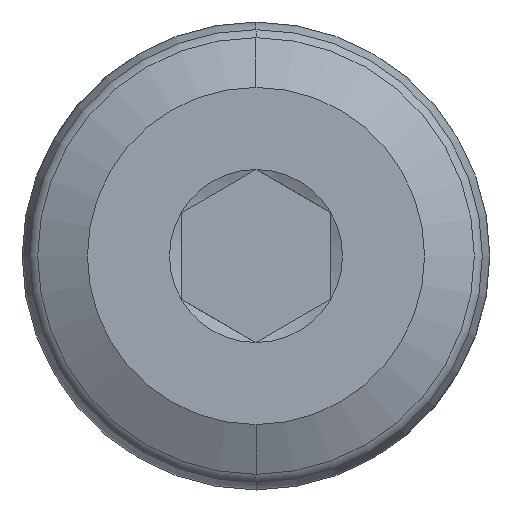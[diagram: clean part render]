
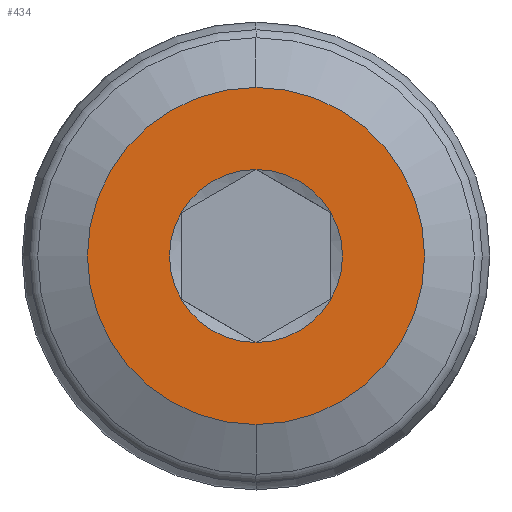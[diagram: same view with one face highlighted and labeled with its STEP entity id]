
A CAD part, left-side view. The second image highlights one B-rep face of the part: STEP entity #434.
In plain terms, the highlighted planar face has unit normal (-1, 0, 0).
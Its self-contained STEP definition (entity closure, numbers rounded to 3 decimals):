
#2 = CIRCLE ( 'NONE', #237, 2.309 ) ;
#5 = EDGE_CURVE ( 'NONE', #755, #504, #836, .T. ) ;
#10 = DIRECTION ( 'NONE',  ( 0., 0., -1. ) ) ;
#25 = AXIS2_PLACEMENT_3D ( 'NONE', #753, #818, #430 ) ;
#47 = VERTEX_POINT ( 'NONE', #140 ) ;
#59 = EDGE_CURVE ( 'NONE', #47, #265, #650, .T. ) ;
#71 = EDGE_LOOP ( 'NONE', ( #432, #514 ) ) ;
#72 = CIRCLE ( 'NONE', #482, 2.309 ) ;
#76 = DIRECTION ( 'NONE',  ( 0., 0., -1. ) ) ;
#93 = DIRECTION ( 'NONE',  ( 0., 0., -1. ) ) ;
#104 = DIRECTION ( 'NONE',  ( 0., 0., -1. ) ) ;
#125 = CIRCLE ( 'NONE', #527, 4.5 ) ;
#127 = ORIENTED_EDGE ( 'NONE', *, *, #595, .T. ) ;
#128 = AXIS2_PLACEMENT_3D ( 'NONE', #734, #425, #163 ) ;
#140 = CARTESIAN_POINT ( 'NONE',  ( 0., 0., 2.309 ) ) ;
#154 = PLANE ( 'NONE',  #128 ) ;
#163 = DIRECTION ( 'NONE',  ( 0., 0., 1. ) ) ;
#184 = ORIENTED_EDGE ( 'NONE', *, *, #272, .T. ) ;
#197 = CARTESIAN_POINT ( 'NONE',  ( 0., -2., 1.155 ) ) ;
#198 = CARTESIAN_POINT ( 'NONE',  ( 0., 0., 0. ) ) ;
#203 = AXIS2_PLACEMENT_3D ( 'NONE', #589, #714, #454 ) ;
#205 = CARTESIAN_POINT ( 'NONE',  ( 0., 0., 0. ) ) ;
#211 = CARTESIAN_POINT ( 'NONE',  ( 0., 0., 0. ) ) ;
#224 = ORIENTED_EDGE ( 'NONE', *, *, #259, .T. ) ;
#227 = DIRECTION ( 'NONE',  ( 1., 0., 0. ) ) ;
#235 = CARTESIAN_POINT ( 'NONE',  ( 0., 0., 4.5 ) ) ;
#237 = AXIS2_PLACEMENT_3D ( 'NONE', #310, #312, #569 ) ;
#241 = EDGE_LOOP ( 'NONE', ( #184, #564, #448, #224, #127, #254 ) ) ;
#254 = ORIENTED_EDGE ( 'NONE', *, *, #5, .T. ) ;
#257 = CARTESIAN_POINT ( 'NONE',  ( 0., 2., -1.155 ) ) ;
#259 = EDGE_CURVE ( 'NONE', #802, #570, #756, .T. ) ;
#265 = VERTEX_POINT ( 'NONE', #197 ) ;
#272 = EDGE_CURVE ( 'NONE', #504, #47, #515, .T. ) ;
#281 = DIRECTION ( 'NONE',  ( 1., 0., 0. ) ) ;
#310 = CARTESIAN_POINT ( 'NONE',  ( 0., 0., 0. ) ) ;
#312 = DIRECTION ( 'NONE',  ( 1., 0., 0. ) ) ;
#333 = DIRECTION ( 'NONE',  ( 1., 0., 0. ) ) ;
#359 = CIRCLE ( 'NONE', #803, 4.5 ) ;
#390 = DIRECTION ( 'NONE',  ( 1., 0., 0. ) ) ;
#415 = CARTESIAN_POINT ( 'NONE',  ( 0., 0., -4.5 ) ) ;
#419 = AXIS2_PLACEMENT_3D ( 'NONE', #211, #390, #656 ) ;
#425 = DIRECTION ( 'NONE',  ( -1., 0., 0. ) ) ;
#429 = VERTEX_POINT ( 'NONE', #235 ) ;
#430 = DIRECTION ( 'NONE',  ( 0., 0., -1. ) ) ;
#432 = ORIENTED_EDGE ( 'NONE', *, *, #749, .F. ) ;
#434 = ADVANCED_FACE ( 'NONE', ( #801, #481 ), #154, .T. ) ;
#448 = ORIENTED_EDGE ( 'NONE', *, *, #471, .T. ) ;
#454 = DIRECTION ( 'NONE',  ( 0., 0., -1. ) ) ;
#466 = VERTEX_POINT ( 'NONE', #415 ) ;
#471 = EDGE_CURVE ( 'NONE', #265, #802, #72, .T. ) ;
#481 = FACE_OUTER_BOUND ( 'NONE', #71, .T. ) ;
#482 = AXIS2_PLACEMENT_3D ( 'NONE', #805, #281, #93 ) ;
#504 = VERTEX_POINT ( 'NONE', #543 ) ;
#505 = AXIS2_PLACEMENT_3D ( 'NONE', #205, #333, #10 ) ;
#514 = ORIENTED_EDGE ( 'NONE', *, *, #532, .F. ) ;
#515 = CIRCLE ( 'NONE', #505, 2.309 ) ;
#519 = DIRECTION ( 'NONE',  ( 1., 0., 0. ) ) ;
#527 = AXIS2_PLACEMENT_3D ( 'NONE', #198, #519, #76 ) ;
#532 = EDGE_CURVE ( 'NONE', #429, #466, #359, .T. ) ;
#543 = CARTESIAN_POINT ( 'NONE',  ( 0., 2., 1.155 ) ) ;
#564 = ORIENTED_EDGE ( 'NONE', *, *, #59, .T. ) ;
#569 = DIRECTION ( 'NONE',  ( 0., 0., -1. ) ) ;
#570 = VERTEX_POINT ( 'NONE', #754 ) ;
#588 = CARTESIAN_POINT ( 'NONE',  ( 0., -2., -1.155 ) ) ;
#589 = CARTESIAN_POINT ( 'NONE',  ( 0., 0., 0. ) ) ;
#595 = EDGE_CURVE ( 'NONE', #570, #755, #2, .T. ) ;
#618 = CARTESIAN_POINT ( 'NONE',  ( 0., 0., 0. ) ) ;
#650 = CIRCLE ( 'NONE', #419, 2.309 ) ;
#656 = DIRECTION ( 'NONE',  ( 0., 0., -1. ) ) ;
#714 = DIRECTION ( 'NONE',  ( 1., 0., 0. ) ) ;
#734 = CARTESIAN_POINT ( 'NONE',  ( 0., 4.5, 0. ) ) ;
#749 = EDGE_CURVE ( 'NONE', #466, #429, #125, .T. ) ;
#753 = CARTESIAN_POINT ( 'NONE',  ( 0., 0., 0. ) ) ;
#754 = CARTESIAN_POINT ( 'NONE',  ( 0., 0., -2.309 ) ) ;
#755 = VERTEX_POINT ( 'NONE', #257 ) ;
#756 = CIRCLE ( 'NONE', #25, 2.309 ) ;
#801 = FACE_BOUND ( 'NONE', #241, .T. ) ;
#802 = VERTEX_POINT ( 'NONE', #588 ) ;
#803 = AXIS2_PLACEMENT_3D ( 'NONE', #618, #227, #104 ) ;
#805 = CARTESIAN_POINT ( 'NONE',  ( 0., 0., 0. ) ) ;
#818 = DIRECTION ( 'NONE',  ( 1., 0., 0. ) ) ;
#836 = CIRCLE ( 'NONE', #203, 2.309 ) ;
